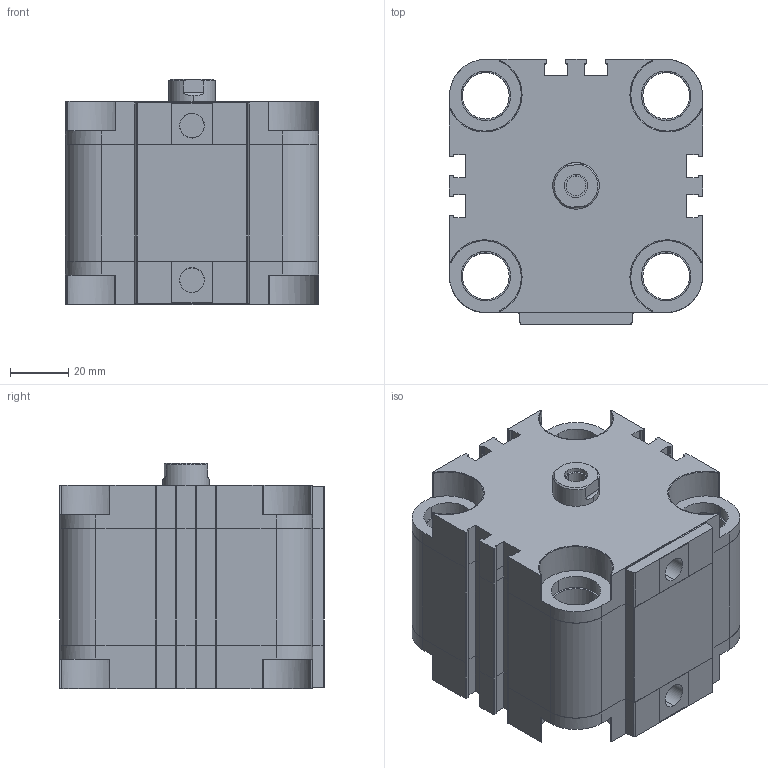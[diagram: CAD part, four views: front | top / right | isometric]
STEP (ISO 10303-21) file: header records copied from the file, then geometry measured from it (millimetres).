
FILE_DESCRIPTION (( 'STEP AP203' ), '1' );
FILE_NAME ('ADVU63X20-S-CYLINDER.STEP', '2015-05-23T09:21:00', ( 'user' ), ( '' ), 'SwSTEP 2.0', 'SolidWorks 2013', '' );
FILE_SCHEMA (( 'CONFIG_CONTROL_DESIGN' ));
Length unit declared in the file: millimetre
Products named in the file (6): ADVU 63-S 烰 KAPAK; ADVU 63-S ORTA PÝSTON; ADVU 63X20-S M尳; ADVU63X20-S-CYLINDER; ADVU 63-S ARKA KAPAK; ADVU 63X20-S BORU
Assembly tree (5 placements, depth 2):
  ADVU63X20-S-CYLINDER
    ADVU 63-S ARKA KAPAK
    ADVU 63X20-S BORU
    ADVU 63-S 烰 KAPAK
    ADVU 63-S ORTA PÝSTON
    ADVU 63X20-S M尳
Bounding box: 87 x 91.1 x 77.5 mm (x, y, z)
Volume: 350815.9 mm3; surface area: 104224.7 mm2
Topology: 6 solids, 6 shells, 552 faces, 1555 edges, 1040 vertices
Faces by surface type: cylinder 267, plane 233, cone 50, bspline 2
Entity records: 23009 total; most frequent: CARTESIAN_POINT 8918, ORIENTED_EDGE 3110, DIRECTION 2347, EDGE_CURVE 1555, VERTEX_POINT 1040, AXIS2_PLACEMENT_3D 811, VECTOR 725, LINE 725
